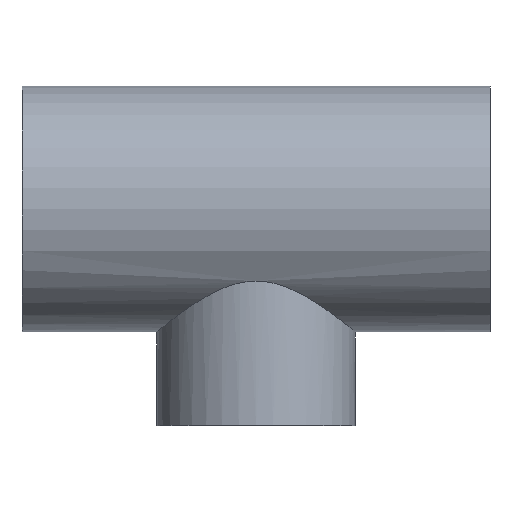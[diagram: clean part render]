
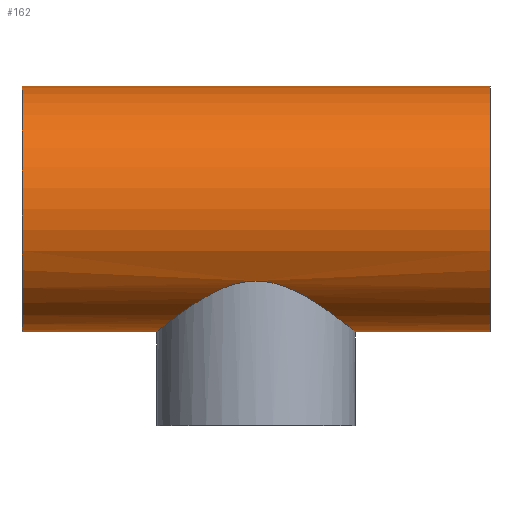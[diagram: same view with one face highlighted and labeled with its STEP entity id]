
A CAD part, top view. The second image highlights one B-rep face of the part: STEP entity #162.
In plain terms, the highlighted cylindrical face has radius 21 mm (diameter 42 mm), a full revolution.
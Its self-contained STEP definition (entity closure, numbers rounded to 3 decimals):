
#16=B_SPLINE_CURVE_WITH_KNOTS('',3,(#328,#329,#330,#331,#332,#333,#334,
#335,#336,#337,#338,#339,#340,#341,#342,#343,#344,#345,#346,#347,#348,#349,
#350,#351,#352,#353,#354,#355,#356,#357,#358,#359,#360,#361,#362,#363,#364,
#365,#366,#367,#368,#369,#370,#371,#372,#373,#374,#375,#376,#377,#378,#379,
#380,#381,#382,#383,#384,#385,#386,#387,#388,#389,#390,#391,#392,#393),
 .UNSPECIFIED.,.T.,.F.,(4,2,2,2,2,2,2,2,2,2,2,2,2,2,2,2,2,2,2,2,2,2,2,2,
2,2,2,2,2,2,2,2,4),(0.,0.35,0.7,1.05,
1.4,1.738,2.077,2.415,2.753,
3.092,3.43,3.768,4.107,4.457,
4.807,5.157,5.507,5.857,6.207,
6.557,6.907,7.245,7.583,7.922,
8.26,8.598,8.937,9.275,9.613,
9.963,10.313,10.663,11.013),
 .UNSPECIFIED.);
#32=FACE_BOUND('',#69,.T.);
#33=FACE_BOUND('',#70,.T.);
#46=FACE_OUTER_BOUND('',#68,.T.);
#68=EDGE_LOOP('',(#136));
#69=EDGE_LOOP('',(#137));
#70=EDGE_LOOP('',(#138));
#88=CIRCLE('',#187,21.);
#89=CIRCLE('',#188,21.);
#101=VERTEX_POINT('',#325);
#102=VERTEX_POINT('',#327);
#103=VERTEX_POINT('',#394);
#115=EDGE_CURVE('',#101,#101,#88,.T.);
#116=EDGE_CURVE('',#102,#102,#16,.T.);
#117=EDGE_CURVE('',#103,#103,#89,.T.);
#136=ORIENTED_EDGE('',*,*,#115,.F.);
#137=ORIENTED_EDGE('',*,*,#116,.T.);
#138=ORIENTED_EDGE('',*,*,#117,.F.);
#152=CYLINDRICAL_SURFACE('',#186,21.);
#162=ADVANCED_FACE('',(#46,#32,#33),#152,.T.);
#186=AXIS2_PLACEMENT_3D('',#324,#230,#231);
#187=AXIS2_PLACEMENT_3D('',#326,#232,#233);
#188=AXIS2_PLACEMENT_3D('',#395,#234,#235);
#230=DIRECTION('center_axis',(1.,0.,0.));
#231=DIRECTION('ref_axis',(0.,-1.,0.));
#232=DIRECTION('center_axis',(-1.,0.,0.));
#233=DIRECTION('ref_axis',(0.,-1.,0.));
#234=DIRECTION('center_axis',(1.,0.,0.));
#235=DIRECTION('ref_axis',(0.,-1.,0.));
#324=CARTESIAN_POINT('Origin',(0.,0.,0.));
#325=CARTESIAN_POINT('',(-40.,21.,0.));
#326=CARTESIAN_POINT('Origin',(-40.,0.,0.));
#327=CARTESIAN_POINT('',(0.,-12.329,17.));
#328=CARTESIAN_POINT('Ctrl Pts',(0.,-12.329,
17.));
#329=CARTESIAN_POINT('Ctrl Pts',(1.167,-12.329,17.));
#330=CARTESIAN_POINT('Ctrl Pts',(2.32,-12.499,16.879));
#331=CARTESIAN_POINT('Ctrl Pts',(4.552,-13.098,16.419));
#332=CARTESIAN_POINT('Ctrl Pts',(5.631,-13.524,16.079));
#333=CARTESIAN_POINT('Ctrl Pts',(7.68,-14.497,15.207));
#334=CARTESIAN_POINT('Ctrl Pts',(8.651,-15.044,14.675));
#335=CARTESIAN_POINT('Ctrl Pts',(10.452,-16.147,13.451));
#336=CARTESIAN_POINT('Ctrl Pts',(11.281,-16.703,12.761));
#337=CARTESIAN_POINT('Ctrl Pts',(12.736,-17.718,11.306));
#338=CARTESIAN_POINT('Ctrl Pts',(13.42,-18.219,10.492));
#339=CARTESIAN_POINT('Ctrl Pts',(14.649,-19.142,8.695));
#340=CARTESIAN_POINT('Ctrl Pts',(15.192,-19.564,7.712));
#341=CARTESIAN_POINT('Ctrl Pts',(16.081,-20.261,5.629));
#342=CARTESIAN_POINT('Ctrl Pts',(16.426,-20.538,4.527));
#343=CARTESIAN_POINT('Ctrl Pts',(16.886,-20.907,2.276));
#344=CARTESIAN_POINT('Ctrl Pts',(17.,-21.,1.128));
#345=CARTESIAN_POINT('Ctrl Pts',(17.,-21.,-1.128));
#346=CARTESIAN_POINT('Ctrl Pts',(16.886,-20.907,-2.276));
#347=CARTESIAN_POINT('Ctrl Pts',(16.426,-20.538,-4.527));
#348=CARTESIAN_POINT('Ctrl Pts',(16.081,-20.261,-5.629));
#349=CARTESIAN_POINT('Ctrl Pts',(15.192,-19.564,-7.712));
#350=CARTESIAN_POINT('Ctrl Pts',(14.649,-19.142,-8.695));
#351=CARTESIAN_POINT('Ctrl Pts',(13.42,-18.219,-10.492));
#352=CARTESIAN_POINT('Ctrl Pts',(12.736,-17.718,-11.306));
#353=CARTESIAN_POINT('Ctrl Pts',(11.281,-16.703,-12.761));
#354=CARTESIAN_POINT('Ctrl Pts',(10.452,-16.147,-13.451));
#355=CARTESIAN_POINT('Ctrl Pts',(8.651,-15.044,-14.675));
#356=CARTESIAN_POINT('Ctrl Pts',(7.68,-14.497,-15.207));
#357=CARTESIAN_POINT('Ctrl Pts',(5.631,-13.524,-16.079));
#358=CARTESIAN_POINT('Ctrl Pts',(4.552,-13.098,-16.419));
#359=CARTESIAN_POINT('Ctrl Pts',(2.32,-12.499,-16.879));
#360=CARTESIAN_POINT('Ctrl Pts',(1.167,-12.329,-17.));
#361=CARTESIAN_POINT('Ctrl Pts',(-1.167,-12.329,-17.));
#362=CARTESIAN_POINT('Ctrl Pts',(-2.32,-12.499,-16.879));
#363=CARTESIAN_POINT('Ctrl Pts',(-4.552,-13.098,-16.419));
#364=CARTESIAN_POINT('Ctrl Pts',(-5.631,-13.524,-16.079));
#365=CARTESIAN_POINT('Ctrl Pts',(-7.68,-14.497,-15.207));
#366=CARTESIAN_POINT('Ctrl Pts',(-8.651,-15.044,-14.675));
#367=CARTESIAN_POINT('Ctrl Pts',(-10.452,-16.147,-13.451));
#368=CARTESIAN_POINT('Ctrl Pts',(-11.281,-16.703,-12.761));
#369=CARTESIAN_POINT('Ctrl Pts',(-12.736,-17.718,-11.306));
#370=CARTESIAN_POINT('Ctrl Pts',(-13.42,-18.219,-10.492));
#371=CARTESIAN_POINT('Ctrl Pts',(-14.649,-19.142,-8.695));
#372=CARTESIAN_POINT('Ctrl Pts',(-15.192,-19.564,-7.712));
#373=CARTESIAN_POINT('Ctrl Pts',(-16.081,-20.261,-5.629));
#374=CARTESIAN_POINT('Ctrl Pts',(-16.426,-20.538,-4.527));
#375=CARTESIAN_POINT('Ctrl Pts',(-16.886,-20.907,-2.276));
#376=CARTESIAN_POINT('Ctrl Pts',(-17.,-21.,-1.128));
#377=CARTESIAN_POINT('Ctrl Pts',(-17.,-21.,1.128));
#378=CARTESIAN_POINT('Ctrl Pts',(-16.886,-20.907,2.276));
#379=CARTESIAN_POINT('Ctrl Pts',(-16.426,-20.538,4.527));
#380=CARTESIAN_POINT('Ctrl Pts',(-16.081,-20.261,5.629));
#381=CARTESIAN_POINT('Ctrl Pts',(-15.192,-19.564,7.712));
#382=CARTESIAN_POINT('Ctrl Pts',(-14.649,-19.142,8.695));
#383=CARTESIAN_POINT('Ctrl Pts',(-13.42,-18.219,10.492));
#384=CARTESIAN_POINT('Ctrl Pts',(-12.736,-17.718,11.306));
#385=CARTESIAN_POINT('Ctrl Pts',(-11.281,-16.703,12.761));
#386=CARTESIAN_POINT('Ctrl Pts',(-10.452,-16.147,13.451));
#387=CARTESIAN_POINT('Ctrl Pts',(-8.651,-15.044,14.675));
#388=CARTESIAN_POINT('Ctrl Pts',(-7.68,-14.497,15.207));
#389=CARTESIAN_POINT('Ctrl Pts',(-5.631,-13.524,16.079));
#390=CARTESIAN_POINT('Ctrl Pts',(-4.552,-13.098,16.419));
#391=CARTESIAN_POINT('Ctrl Pts',(-2.32,-12.499,16.879));
#392=CARTESIAN_POINT('Ctrl Pts',(-1.167,-12.329,17.));
#393=CARTESIAN_POINT('Ctrl Pts',(0.,-12.329,
17.));
#394=CARTESIAN_POINT('',(40.,21.,0.));
#395=CARTESIAN_POINT('Origin',(40.,0.,0.));
